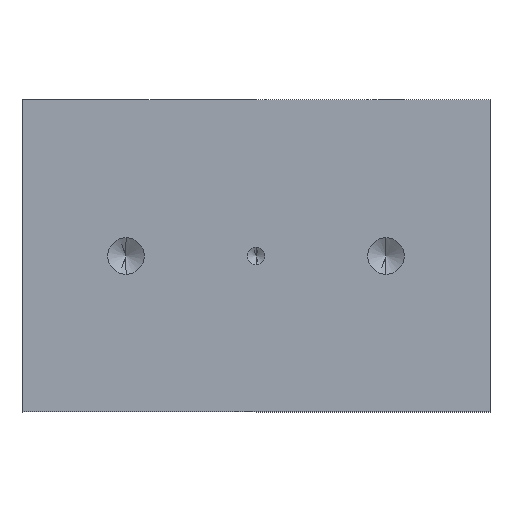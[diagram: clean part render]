
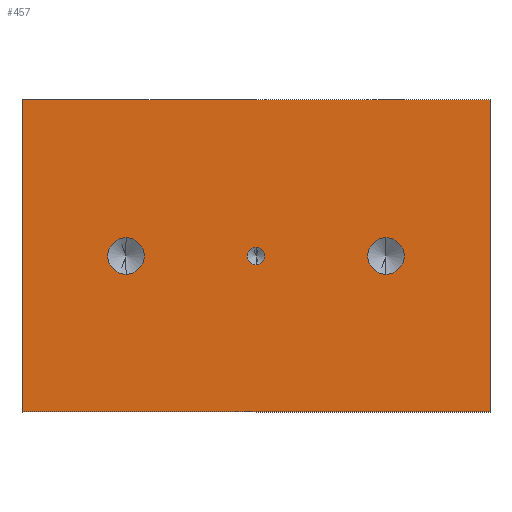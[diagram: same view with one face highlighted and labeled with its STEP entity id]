
A CAD part, front view. The second image highlights one B-rep face of the part: STEP entity #457.
In plain terms, the highlighted planar face has unit normal (0, -1, 0).
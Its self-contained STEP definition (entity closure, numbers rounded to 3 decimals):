
#4 = VERTEX_POINT ( 'NONE', #76 ) ;
#31 = VERTEX_POINT ( 'NONE', #77 ) ;
#41 = VERTEX_POINT ( 'NONE', #60 ) ;
#60 = CARTESIAN_POINT ( 'NONE',  ( 27., 0., 17. ) ) ;
#76 = CARTESIAN_POINT ( 'NONE',  ( 12., 0., 15.9 ) ) ;
#77 = CARTESIAN_POINT ( 'NONE',  ( 0., 0., 0. ) ) ;
#118 = VERTEX_POINT ( 'NONE', #175 ) ;
#130 = VERTEX_POINT ( 'NONE', #176 ) ;
#138 = VERTEX_POINT ( 'NONE', #180 ) ;
#140 = VERTEX_POINT ( 'NONE', #184 ) ;
#149 = VERTEX_POINT ( 'NONE', #192 ) ;
#175 = CARTESIAN_POINT ( 'NONE',  ( 27., 0., 19. ) ) ;
#176 = CARTESIAN_POINT ( 'NONE',  ( 42., 0., 20.1 ) ) ;
#180 = CARTESIAN_POINT ( 'NONE',  ( 54., 0., 36. ) ) ;
#184 = CARTESIAN_POINT ( 'NONE',  ( 54., 0., 0. ) ) ;
#192 = CARTESIAN_POINT ( 'NONE',  ( 42., 0., 15.9 ) ) ;
#203 = DIRECTION ( 'NONE',  ( 0., -1., 0. ) ) ;
#204 = DIRECTION ( 'NONE',  ( 0., 0., -1. ) ) ;
#206 = CARTESIAN_POINT ( 'NONE',  ( 42., 0., 18. ) ) ;
#215 = CARTESIAN_POINT ( 'NONE',  ( 12., 0., 18. ) ) ;
#237 = DIRECTION ( 'NONE',  ( 0., 0., -1. ) ) ;
#238 = DIRECTION ( 'NONE',  ( 0., -1., 0. ) ) ;
#279 = PLANE ( 'NONE',  #1572 ) ;
#362 = DIRECTION ( 'NONE',  ( 0., 1., 0. ) ) ;
#363 = CARTESIAN_POINT ( 'NONE',  ( 0., 0., 36. ) ) ;
#364 = DIRECTION ( 'NONE',  ( 0., 0., 1. ) ) ;
#398 = EDGE_CURVE ( 'NONE', #130, #149, #1183, .T. ) ;
#405 = EDGE_LOOP ( 'NONE', ( #939, #940, #941, #942 ) ) ;
#408 = EDGE_CURVE ( 'NONE', #1770, #4, #483, .T. ) ;
#413 = AXIS2_PLACEMENT_3D ( 'NONE', #206, #203, #204 ) ;
#415 = AXIS2_PLACEMENT_3D ( 'NONE', #215, #238, #237 ) ;
#457 = ADVANCED_FACE ( 'NONE', ( #557, #563, #565, #567 ), #279, .F. ) ;
#483 = CIRCLE ( 'NONE', #415, 2.1 ) ;
#557 = FACE_BOUND ( 'NONE', #851, .T. ) ;
#563 = FACE_BOUND ( 'NONE', #867, .T. ) ;
#565 = FACE_BOUND ( 'NONE', #1756, .T. ) ;
#567 = FACE_OUTER_BOUND ( 'NONE', #405, .T. ) ;
#615 = CIRCLE ( 'NONE', #1599, 1. ) ;
#656 = LINE ( 'NONE', #1235, #664 ) ;
#664 = VECTOR ( 'NONE', #1228, 1000. ) ;
#736 = LINE ( 'NONE', #1266, #738 ) ;
#737 = CIRCLE ( 'NONE', #1625, 2.1 ) ;
#738 = VECTOR ( 'NONE', #1264, 1000. ) ;
#753 = LINE ( 'NONE', #1247, #754 ) ;
#754 = VECTOR ( 'NONE', #1246, 1000. ) ;
#762 = LINE ( 'NONE', #1231, #763 ) ;
#763 = VECTOR ( 'NONE', #1230, 1000. ) ;
#787 = CIRCLE ( 'NONE', #1637, 2.1 ) ;
#806 = CIRCLE ( 'NONE', #1641, 1. ) ;
#851 = EDGE_LOOP ( 'NONE', ( #933, #934 ) ) ;
#867 = EDGE_LOOP ( 'NONE', ( #935, #936 ) ) ;
#933 = ORIENTED_EDGE ( 'NONE', *, *, #1764, .F. ) ;
#934 = ORIENTED_EDGE ( 'NONE', *, *, #1425, .F. ) ;
#935 = ORIENTED_EDGE ( 'NONE', *, *, #1499, .F. ) ;
#936 = ORIENTED_EDGE ( 'NONE', *, *, #408, .F. ) ;
#937 = ORIENTED_EDGE ( 'NONE', *, *, #1713, .F. ) ;
#938 = ORIENTED_EDGE ( 'NONE', *, *, #398, .F. ) ;
#939 = ORIENTED_EDGE ( 'NONE', *, *, #1456, .F. ) ;
#940 = ORIENTED_EDGE ( 'NONE', *, *, #1504, .F. ) ;
#941 = ORIENTED_EDGE ( 'NONE', *, *, #1510, .F. ) ;
#942 = ORIENTED_EDGE ( 'NONE', *, *, #1515, .F. ) ;
#1183 = CIRCLE ( 'NONE', #413, 2.1 ) ;
#1203 = CARTESIAN_POINT ( 'NONE',  ( 42., 0., 18. ) ) ;
#1228 = DIRECTION ( 'NONE',  ( 0., 0., 1. ) ) ;
#1230 = DIRECTION ( 'NONE',  ( 1., 0., 0. ) ) ;
#1231 = CARTESIAN_POINT ( 'NONE',  ( 0., 0., 36. ) ) ;
#1235 = CARTESIAN_POINT ( 'NONE',  ( 0., 0., 0. ) ) ;
#1246 = DIRECTION ( 'NONE',  ( 0., 0., -1. ) ) ;
#1247 = CARTESIAN_POINT ( 'NONE',  ( 54., 0., 0. ) ) ;
#1264 = DIRECTION ( 'NONE',  ( -1., 0., 0. ) ) ;
#1266 = CARTESIAN_POINT ( 'NONE',  ( 0., 0., 0. ) ) ;
#1280 = DIRECTION ( 'NONE',  ( 0., 0., -1. ) ) ;
#1281 = DIRECTION ( 'NONE',  ( 0., -1., 0. ) ) ;
#1284 = CARTESIAN_POINT ( 'NONE',  ( 12., 0., 18. ) ) ;
#1425 = EDGE_CURVE ( 'NONE', #118, #41, #615, .T. ) ;
#1456 = EDGE_CURVE ( 'NONE', #31, #1800, #656, .T. ) ;
#1499 = EDGE_CURVE ( 'NONE', #4, #1770, #737, .T. ) ;
#1504 = EDGE_CURVE ( 'NONE', #140, #31, #736, .T. ) ;
#1510 = EDGE_CURVE ( 'NONE', #138, #140, #753, .T. ) ;
#1515 = EDGE_CURVE ( 'NONE', #1800, #138, #762, .T. ) ;
#1572 = AXIS2_PLACEMENT_3D ( 'NONE', #363, #362, #364 ) ;
#1599 = AXIS2_PLACEMENT_3D ( 'NONE', #1776, #1773, #1772 ) ;
#1625 = AXIS2_PLACEMENT_3D ( 'NONE', #1284, #1281, #1280 ) ;
#1637 = AXIS2_PLACEMENT_3D ( 'NONE', #1203, #1701, #1697 ) ;
#1641 = AXIS2_PLACEMENT_3D ( 'NONE', #1698, #1676, #1675 ) ;
#1674 = CARTESIAN_POINT ( 'NONE',  ( 12., 0., 20.1 ) ) ;
#1675 = DIRECTION ( 'NONE',  ( 0., 0., -1. ) ) ;
#1676 = DIRECTION ( 'NONE',  ( 0., -1., 0. ) ) ;
#1677 = CARTESIAN_POINT ( 'NONE',  ( 0., 0., 36. ) ) ;
#1697 = DIRECTION ( 'NONE',  ( 0., 0., -1. ) ) ;
#1698 = CARTESIAN_POINT ( 'NONE',  ( 27., 0., 18. ) ) ;
#1701 = DIRECTION ( 'NONE',  ( 0., -1., 0. ) ) ;
#1713 = EDGE_CURVE ( 'NONE', #149, #130, #787, .T. ) ;
#1756 = EDGE_LOOP ( 'NONE', ( #937, #938 ) ) ;
#1764 = EDGE_CURVE ( 'NONE', #41, #118, #806, .T. ) ;
#1770 = VERTEX_POINT ( 'NONE', #1674 ) ;
#1772 = DIRECTION ( 'NONE',  ( 0., 0., -1. ) ) ;
#1773 = DIRECTION ( 'NONE',  ( 0., -1., 0. ) ) ;
#1776 = CARTESIAN_POINT ( 'NONE',  ( 27., 0., 18. ) ) ;
#1800 = VERTEX_POINT ( 'NONE', #1677 ) ;
